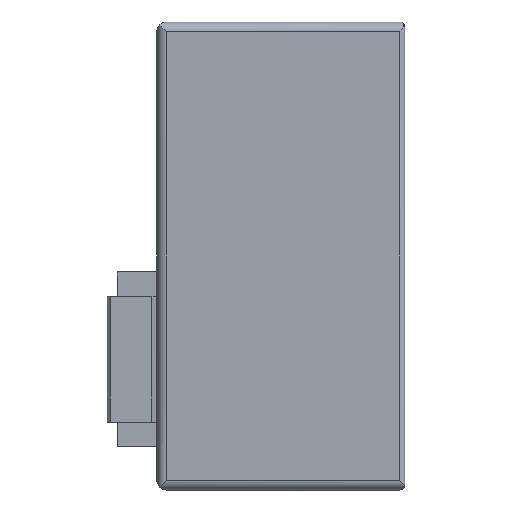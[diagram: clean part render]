
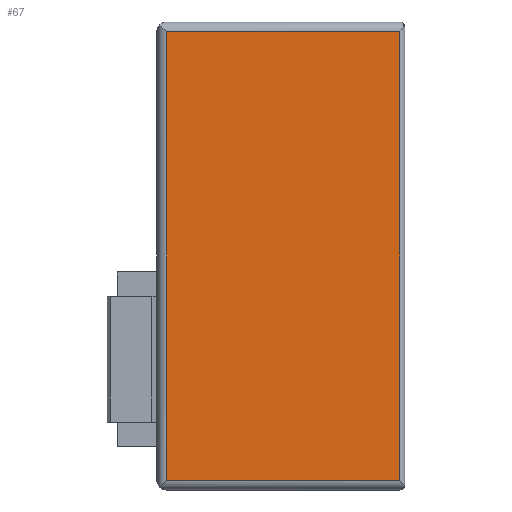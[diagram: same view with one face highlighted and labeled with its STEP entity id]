
A CAD part, front view. The second image highlights one B-rep face of the part: STEP entity #67.
In plain terms, the highlighted planar face has unit normal (0, -1, 0).
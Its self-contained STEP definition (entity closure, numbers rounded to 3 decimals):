
#67=ADVANCED_FACE('',(#356),#355,.T.);
#355=PLANE('',#824);
#356=FACE_OUTER_BOUND('',#825,.T.);
#821=CARTESIAN_POINT('',(-2.7,-40.5,101.44));
#822=DIRECTION('',(0.,-1.,0.));
#823=DIRECTION('',(0.,0.,-1.));
#824=AXIS2_PLACEMENT_3D('',#821,#822,#823);
#825=EDGE_LOOP('',(#1050,#1051,#1052,#1053));
#1050=ORIENTED_EDGE('',*,*,#1126,.T.);
#1051=ORIENTED_EDGE('',*,*,#1134,.T.);
#1052=ORIENTED_EDGE('',*,*,#1216,.T.);
#1053=ORIENTED_EDGE('',*,*,#1217,.T.);
#1126=EDGE_CURVE('',#1248,#1241,#1249,.T.);
#1134=EDGE_CURVE('',#1241,#1296,#1303,.T.);
#1216=EDGE_CURVE('',#1296,#1850,#1851,.T.);
#1217=EDGE_CURVE('',#1850,#1248,#1857,.T.);
#1241=VERTEX_POINT('',#1967);
#1248=VERTEX_POINT('',#1978);
#1249=LINE('',#1979,#1980);
#1296=VERTEX_POINT('',#2005);
#1303=LINE('',#2016,#2017);
#1850=VERTEX_POINT('',#2338);
#1851=LINE('',#2339,#2340);
#1857=LINE('',#2342,#2343);
#1967=CARTESIAN_POINT('',(49.,-40.5,2.));
#1978=CARTESIAN_POINT('',(2.,-40.5,2.));
#1979=CARTESIAN_POINT('',(2.,-40.5,2.));
#1980=VECTOR('',#1981,47.);
#1981=DIRECTION('',(1.,0.,0.));
#2005=CARTESIAN_POINT('',(49.,-40.5,92.4));
#2016=CARTESIAN_POINT('',(49.,-40.5,2.));
#2017=VECTOR('',#2018,90.4);
#2018=DIRECTION('',(0.,0.,1.));
#2338=CARTESIAN_POINT('',(2.,-40.5,92.4));
#2339=CARTESIAN_POINT('',(49.,-40.5,92.4));
#2340=VECTOR('',#2341,47.);
#2341=DIRECTION('',(-1.,0.,0.));
#2342=CARTESIAN_POINT('',(2.,-40.5,92.4));
#2343=VECTOR('',#2344,90.4);
#2344=DIRECTION('',(0.,0.,-1.));
